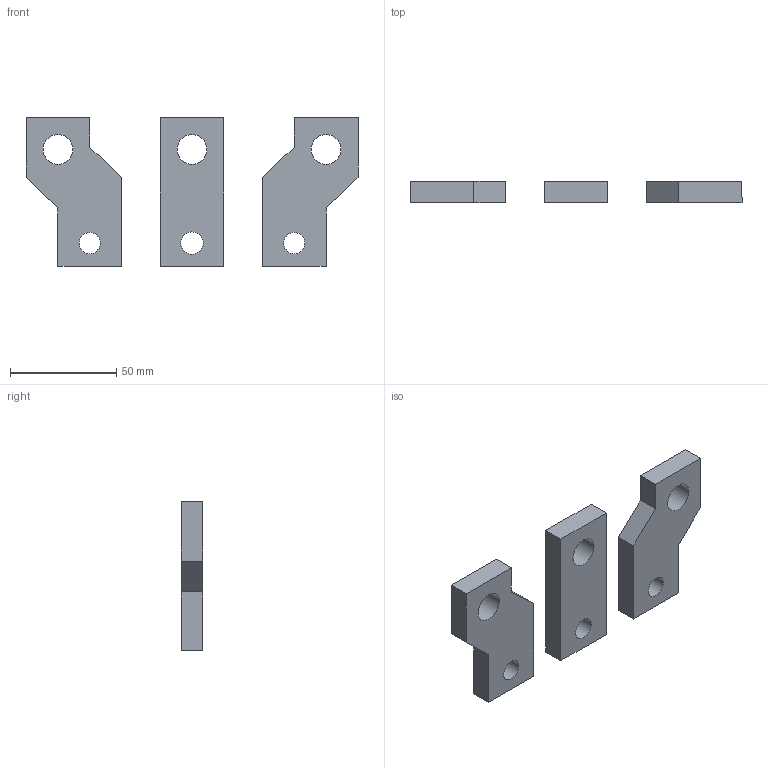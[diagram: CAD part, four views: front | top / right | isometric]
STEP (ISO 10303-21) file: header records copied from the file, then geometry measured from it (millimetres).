
FILE_DESCRIPTION (( 'STEP AP214' ), '1' );
FILE_NAME ('TGM1N-GP-630-3P.STEP', '2025-12-29T11:41:07', ( '' ), ( '' ), 'SwSTEP 2.0', 'SolidWorks 2024', '' );
FILE_SCHEMA (( 'AUTOMOTIVE_DESIGN' ));
Length unit declared in the file: millimetre
Products named in the file (6): TGM1NE-GP-630-3P; TGM1NE-GP-630-3P2; TGM1N-GP-630-3P; TGM1NE-GP-630-3P(straight).stp; 630ZHIPAI_1_1.stp
Assembly tree (6 placements, depth 3):
  TGM1N-GP-630-3P
    TGM1NE-GP-630-3P(straight).stp
      630ZHIPAI_1_1.stp
    TGM1NE-GP-630-3P
      TGM1NE-GP-630-3P
    TGM1NE-GP-630-3P2
      TGM1NE-GP-630-3P
Bounding box: 156 x 10 x 70 mm (x, y, z)
Volume: 60220.2 mm3; surface area: 20579.3 mm2
Topology: 3 solids, 3 shells, 38 faces, 96 edges, 64 vertices
Faces by surface type: plane 26, cylinder 12
Entity records: 910 total; most frequent: DIRECTION 148, CARTESIAN_POINT 136, ORIENTED_EDGE 120, EDGE_CURVE 60, AXIS2_PLACEMENT_3D 52, LINE 44, VECTOR 44, VERTEX_POINT 40
